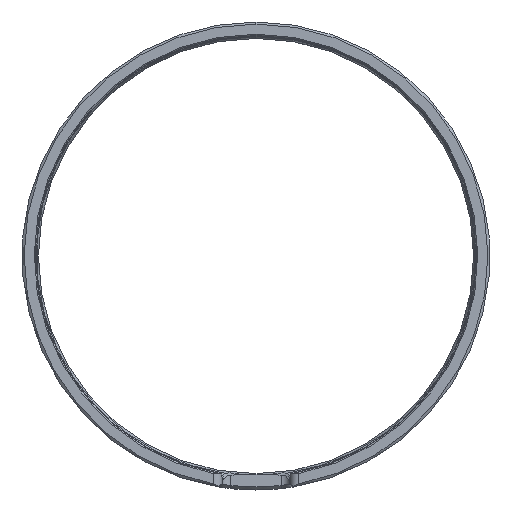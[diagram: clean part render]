
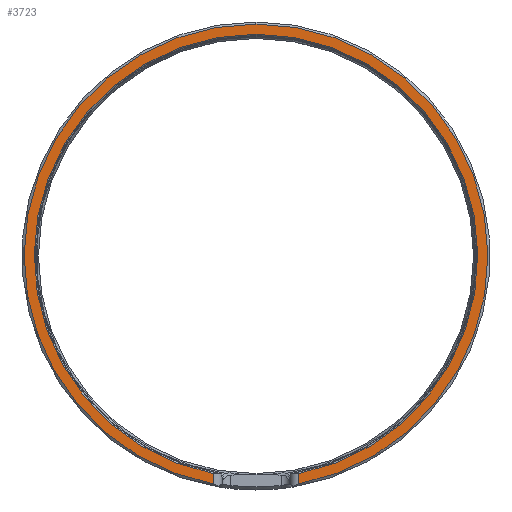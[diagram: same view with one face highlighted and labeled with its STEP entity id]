
A CAD part, left-side view. The second image highlights one B-rep face of the part: STEP entity #3723.
In plain terms, the highlighted planar face has unit normal (-1, 0, 0).
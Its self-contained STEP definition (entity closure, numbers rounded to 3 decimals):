
#74 = AXIS2_PLACEMENT_3D ( 'NONE', #1814, #3184, #325 ) ;
#199 = VECTOR ( 'NONE', #3970, 1000. ) ;
#325 = DIRECTION ( 'NONE',  ( 0., 0., 1. ) ) ;
#465 = CARTESIAN_POINT ( 'NONE',  ( -300., 0., 55.5 ) ) ;
#561 = EDGE_CURVE ( 'NONE', #4581, #3936, #4597, .T. ) ;
#581 = CARTESIAN_POINT ( 'NONE',  ( -300., -10.2, -54.555 ) ) ;
#750 = ORIENTED_EDGE ( 'NONE', *, *, #1114, .F. ) ;
#809 = FACE_OUTER_BOUND ( 'NONE', #2944, .T. ) ;
#1014 = CARTESIAN_POINT ( 'NONE',  ( -300., 10.2, -52.086 ) ) ;
#1060 = ORIENTED_EDGE ( 'NONE', *, *, #3102, .T. ) ;
#1114 = EDGE_CURVE ( 'NONE', #2791, #4043, #2559, .T. ) ;
#1168 = CIRCLE ( 'NONE', #1620, 55.5 ) ;
#1382 = VERTEX_POINT ( 'NONE', #581 ) ;
#1490 = DIRECTION ( 'NONE',  ( 0., 0., 1. ) ) ;
#1620 = AXIS2_PLACEMENT_3D ( 'NONE', #1768, #4238, #2103 ) ;
#1768 = CARTESIAN_POINT ( 'NONE',  ( -300., 0., 0. ) ) ;
#1814 = CARTESIAN_POINT ( 'NONE',  ( -300., 0., 0. ) ) ;
#1843 = LINE ( 'NONE', #3286, #2638 ) ;
#2103 = DIRECTION ( 'NONE',  ( 0., 0., 1. ) ) ;
#2168 = LINE ( 'NONE', #2529, #199 ) ;
#2208 = EDGE_CURVE ( 'NONE', #1382, #2791, #1843, .T. ) ;
#2221 = PLANE ( 'NONE',  #3821 ) ;
#2388 = DIRECTION ( 'NONE',  ( -1., 0., 0. ) ) ;
#2529 = CARTESIAN_POINT ( 'NONE',  ( -300., 10.2, -56. ) ) ;
#2559 = CIRCLE ( 'NONE', #74, 53.075 ) ;
#2571 = AXIS2_PLACEMENT_3D ( 'NONE', #2738, #2388, #3837 ) ;
#2638 = VECTOR ( 'NONE', #1490, 1000. ) ;
#2656 = DIRECTION ( 'NONE',  ( 0., 0., -1. ) ) ;
#2674 = EDGE_CURVE ( 'NONE', #1382, #4581, #1168, .T. ) ;
#2677 = CARTESIAN_POINT ( 'NONE',  ( -300., 10.2, -54.555 ) ) ;
#2738 = CARTESIAN_POINT ( 'NONE',  ( -300., 0., 0. ) ) ;
#2791 = VERTEX_POINT ( 'NONE', #3356 ) ;
#2918 = ORIENTED_EDGE ( 'NONE', *, *, #561, .T. ) ;
#2944 = EDGE_LOOP ( 'NONE', ( #3766, #4198, #2918, #1060, #750 ) ) ;
#3102 = EDGE_CURVE ( 'NONE', #3936, #4043, #2168, .T. ) ;
#3184 = DIRECTION ( 'NONE',  ( -1., 0., 0. ) ) ;
#3286 = CARTESIAN_POINT ( 'NONE',  ( -300., -10.2, -56. ) ) ;
#3356 = CARTESIAN_POINT ( 'NONE',  ( -300., -10.2, -52.086 ) ) ;
#3379 = CARTESIAN_POINT ( 'NONE',  ( -300., 0., 0. ) ) ;
#3723 = ADVANCED_FACE ( 'NONE', ( #809 ), #2221, .T. ) ;
#3766 = ORIENTED_EDGE ( 'NONE', *, *, #2208, .F. ) ;
#3821 = AXIS2_PLACEMENT_3D ( 'NONE', #3379, #4424, #2656 ) ;
#3837 = DIRECTION ( 'NONE',  ( 0., 0., 1. ) ) ;
#3936 = VERTEX_POINT ( 'NONE', #2677 ) ;
#3970 = DIRECTION ( 'NONE',  ( 0., 0., 1. ) ) ;
#4043 = VERTEX_POINT ( 'NONE', #1014 ) ;
#4198 = ORIENTED_EDGE ( 'NONE', *, *, #2674, .T. ) ;
#4238 = DIRECTION ( 'NONE',  ( -1., 0., 0. ) ) ;
#4424 = DIRECTION ( 'NONE',  ( -1., 0., 0. ) ) ;
#4581 = VERTEX_POINT ( 'NONE', #465 ) ;
#4597 = CIRCLE ( 'NONE', #2571, 55.5 ) ;
